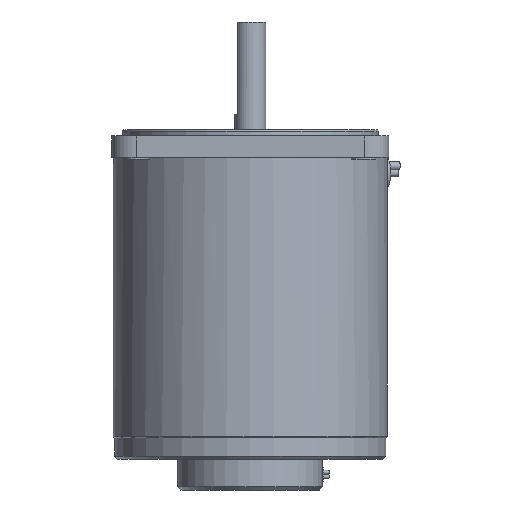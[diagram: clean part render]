
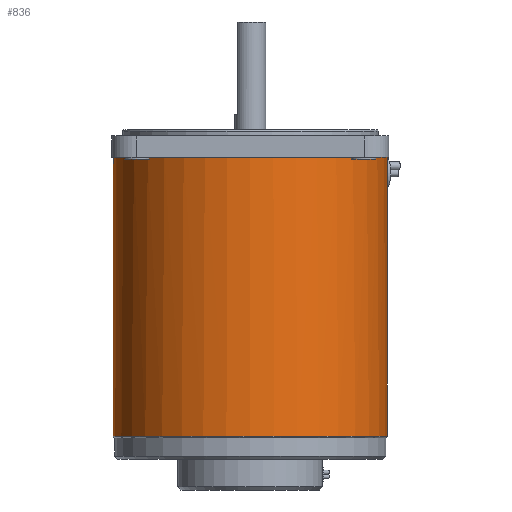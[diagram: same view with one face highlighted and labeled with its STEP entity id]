
A CAD part, left-side view. The second image highlights one B-rep face of the part: STEP entity #836.
In plain terms, the highlighted cylindrical face has radius 44.5 mm (diameter 89 mm), a full revolution.
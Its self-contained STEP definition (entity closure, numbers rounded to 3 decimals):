
#662=CARTESIAN_POINT('',(20.792,-39.344,98.));
#663=VERTEX_POINT('',#662);
#671=CARTESIAN_POINT('',(13.118,-42.523,98.0));
#672=VERTEX_POINT('',#671);
#679=CARTESIAN_POINT('',(20.792,-39.344,98.0));
#680=CARTESIAN_POINT('',(20.931,-39.271,97.871));
#681=CARTESIAN_POINT('',(21.062,-39.201,97.735));
#682=CARTESIAN_POINT('',(21.694,-38.858,97.02));
#683=CARTESIAN_POINT('',(22.132,-38.608,96.29));
#684=CARTESIAN_POINT('',(22.71,-38.27,94.689));
#685=CARTESIAN_POINT('',(22.852,-38.184,93.817));
#686=CARTESIAN_POINT('',(22.852,-38.184,92.183));
#687=CARTESIAN_POINT('',(22.71,-38.27,91.311));
#688=CARTESIAN_POINT('',(22.132,-38.608,89.71));
#689=CARTESIAN_POINT('',(21.694,-38.858,88.98));
#690=CARTESIAN_POINT('',(20.675,-39.41,87.827));
#691=CARTESIAN_POINT('',(20.025,-39.748,87.327));
#692=CARTESIAN_POINT('',(18.58,-40.444,86.664));
#693=CARTESIAN_POINT('',(17.785,-40.8,86.5));
#694=CARTESIAN_POINT('',(16.274,-41.425,86.5));
#695=CARTESIAN_POINT('',(15.46,-41.736,86.664));
#696=CARTESIAN_POINT('',(13.946,-42.266,87.327));
#697=CARTESIAN_POINT('',(13.247,-42.486,87.827));
#698=CARTESIAN_POINT('',(12.137,-42.817,88.98));
#699=CARTESIAN_POINT('',(11.65,-42.949,89.71));
#700=CARTESIAN_POINT('',(11.002,-43.12,91.311));
#701=CARTESIAN_POINT('',(10.842,-43.159,92.183));
#702=CARTESIAN_POINT('',(10.842,-43.159,93.));
#703=CARTESIAN_POINT('',(10.842,-43.159,93.817));
#704=CARTESIAN_POINT('',(11.002,-43.12,94.689));
#705=CARTESIAN_POINT('',(11.65,-42.949,96.29));
#706=CARTESIAN_POINT('',(12.137,-42.817,97.02));
#707=CARTESIAN_POINT('',(12.826,-42.612,97.735));
#708=CARTESIAN_POINT('',(12.968,-42.569,97.871));
#709=CARTESIAN_POINT('',(13.118,-42.523,98.0));
#710=B_SPLINE_CURVE_WITH_KNOTS('',3,(#679,#680,#681,#682,#683,#684,#685,#686,#687,#688,#689,#690,#691,#692,#693,#694,#695,#696,#697,#698,#699,#700,#701,#702,#703,#704,#705,#706,#707,#708,#709),.UNSPECIFIED.,.F.,.U.,(4,2,2,2,2,2,2,2,2,2,2,3,2,2,4),(-2.511,-2.452,-2.207,-1.962,-1.717,-1.471,-1.226,-0.981,-0.736,-0.49,-0.245,0.,0.245,0.49,0.55),.UNSPECIFIED.);
#711=EDGE_CURVE('',#663,#672,#710,.T.);
#805=CARTESIAN_POINT('',(0.0,0.0,98.0));
#806=DIRECTION('',(0.0,0.0,1.0));
#807=DIRECTION('',(0.618,-0.786,0.0));
#808=AXIS2_PLACEMENT_3D('',#805,#806,#807);
#809=CIRCLE('',#808,44.5);
#810=EDGE_CURVE('',#663,#672,#809,.T.);
#816=CARTESIAN_POINT('',(0.0,0.0,0.0));
#817=DIRECTION('',(0.0,0.0,1.0));
#818=DIRECTION('',(-1.0,0.0,0.0));
#819=AXIS2_PLACEMENT_3D('',#816,#817,#818);
#820=CYLINDRICAL_SURFACE('',#819,44.5);
#821=CARTESIAN_POINT('',(-44.5,0.,7.5));
#822=VERTEX_POINT('',#821);
#823=CARTESIAN_POINT('',(0.0,0.0,7.5));
#824=DIRECTION('',(0.0,0.0,-1.0));
#825=DIRECTION('',(1.0,0.0,0.0));
#826=AXIS2_PLACEMENT_3D('',#823,#824,#825);
#827=CIRCLE('',#826,44.5);
#828=EDGE_CURVE('',#822,#822,#827,.T.);
#829=ORIENTED_EDGE('',*,*,#828,.F.);
#830=EDGE_LOOP('',(#829));
#831=FACE_OUTER_BOUND('',#830,.T.);
#832=ORIENTED_EDGE('',*,*,#711,.T.);
#833=ORIENTED_EDGE('',*,*,#810,.F.);
#834=EDGE_LOOP('',(#832,#833));
#835=FACE_BOUND('',#834,.T.);
#836=ADVANCED_FACE('',(#831,#835),#820,.T.);
